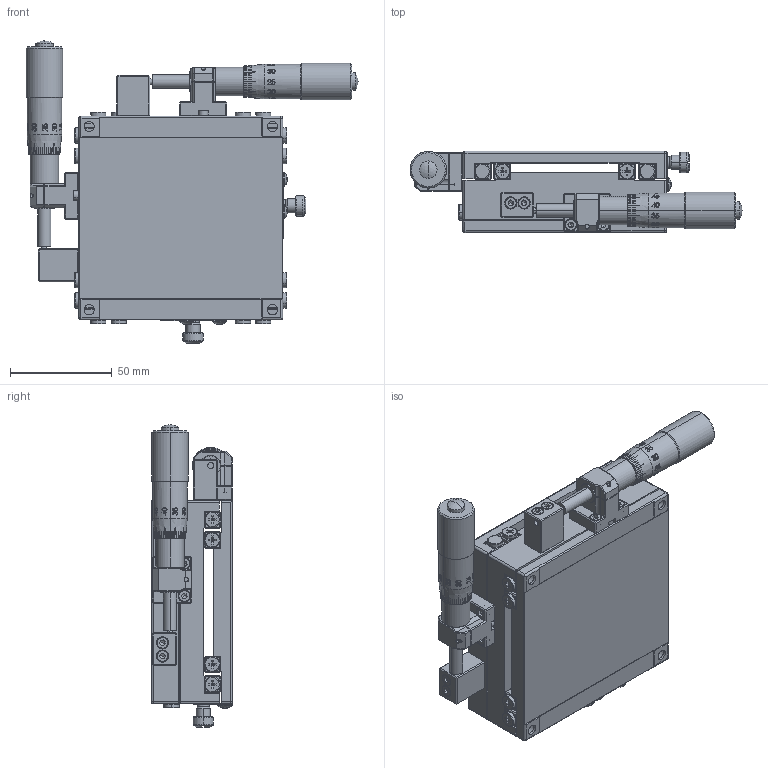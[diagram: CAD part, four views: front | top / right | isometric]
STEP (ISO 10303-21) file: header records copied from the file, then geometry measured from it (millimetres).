
FILE_DESCRIPTION (( 'STEP AP203' ), '1' );
FILE_NAME ('MY100-AS(«¬¿ý).STEP', '2013-06-24T07:42:10', ( '123' ), ( '' ), 'SwSTEP 2.0', 'SolidWorks 2013', '' );
FILE_SCHEMA (( 'CONFIG_CONTROL_DESIGN' ));
Products named in the file (4): Group2^MY100-AS(型錄); Group3^MY100-AS(型錄); MY100-AS(型錄); Group1^MY100-AS(型錄)
Assembly tree (3 placements, depth 2):
  MY100-AS(型錄)
    Group1^MY100-AS(型錄)
    Group2^MY100-AS(型錄)
    Group3^MY100-AS(型錄)
Bounding box: 163 x 40 x 148.4 mm (x, y, z)
Volume: 388011 mm3; surface area: 126658.9 mm2
Topology: 41 solids, 41 shells, 4882 faces, 12570 edges, 7976 vertices
Faces by surface type: plane 3050, cylinder 814, bspline 626, cone 262, torus 108, sphere 22
Entity records: 213908 total; most frequent: CARTESIAN_POINT 98464, ORIENTED_EDGE 25012, DIRECTION 21910, EDGE_CURVE 12506, LINE 7994, VECTOR 7994, VERTEX_POINT 7970, AXIS2_PLACEMENT_3D 6958
